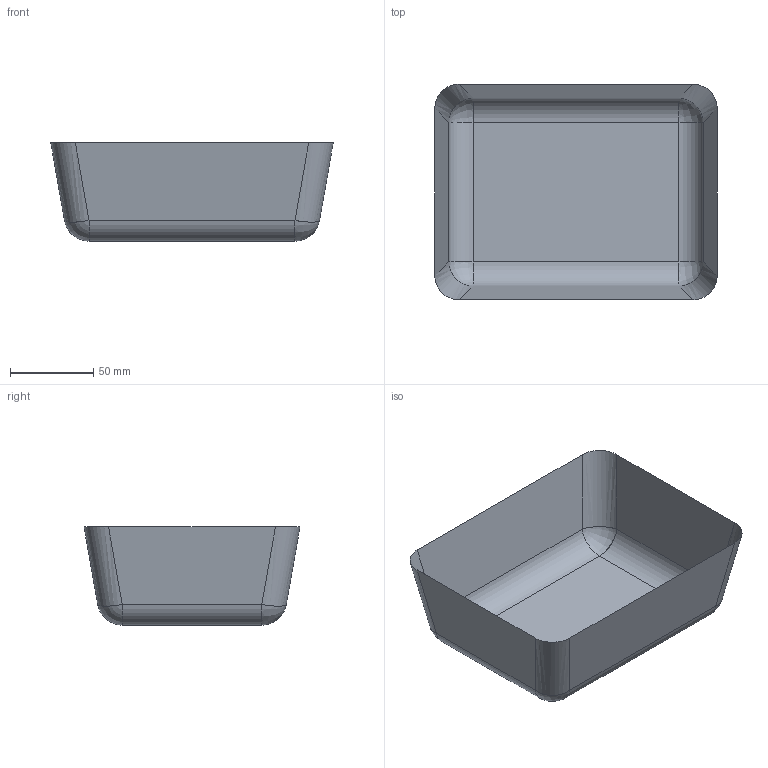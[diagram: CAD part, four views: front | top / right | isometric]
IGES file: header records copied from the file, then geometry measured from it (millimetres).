
Start section: START RECORD GO HERE.
Global section: file name: Basket_assm_a.igs; native system: IBM CATIA IGES - CATIA Version 5 Release 16 ; preprocessor: CATIA Version 5 Release 16 ; author: mmswsham; organization: FG625-TI; date: 20061215.112555; units: millimetre
Bounding box: 170 x 130 x 59.09 mm (x, y, z)
Surface area: 46026 mm2 (no closed solid volume)
Topology: 0 solids, 0 shells, 17 faces, 77 edges, 84 vertices
Faces by surface type: revolution 12, bspline 4, plane 1
